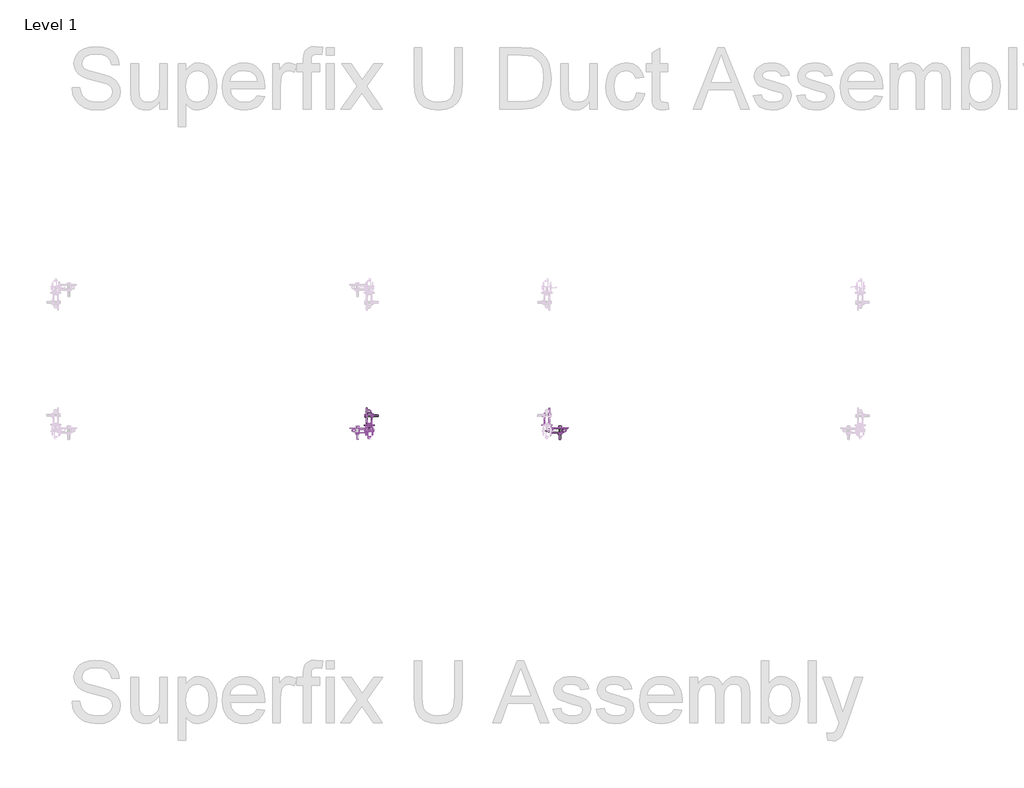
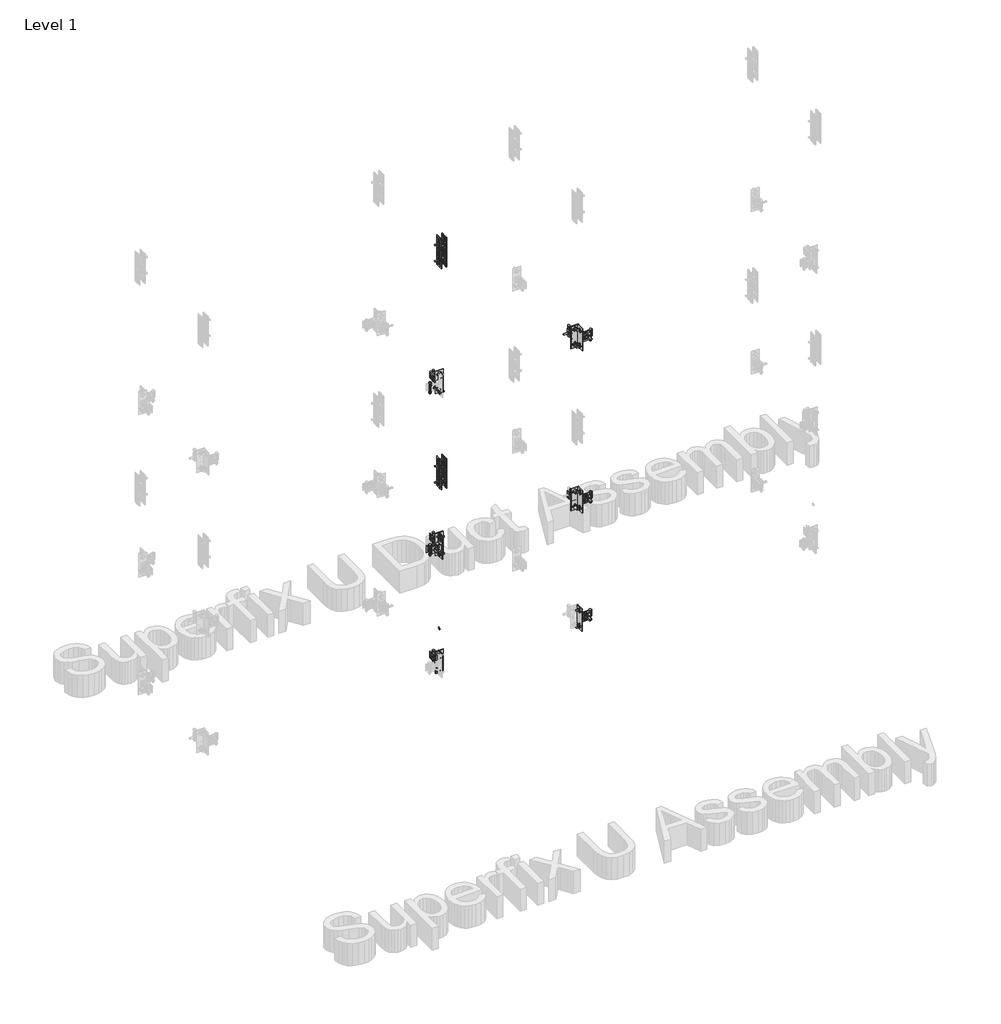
# One storey, part 10 of 32: 144 valves.
"""IFC4 building model written with IfcOpenShell, lengths in millimetres."""

from ifc_helpers import new_model, si_unit, origin, place, context, project, spatial, transform, mapped, element, save
from components import valve_fad8a5b8, hexagon_nut_galvanized_extra_m8_53389388, superfix_hexagon_screw_galvanized_8354a985, superfix_hexagon_screw_galvanized_f0d66714, superfix_hexagon_screw_galvanized_68d17cb7, superfix_hexagon_screw_galvanized_e39b877e, superfix_hexagon_screw_galvanized_3ef5af78, superfix_hexagon_screw_galvanized_3d7df342, superfix_strap_981cfdac, superfix_u_bracket_h_0b8578fe, superfix_u_bracket_h_f60a1122

model = new_model("IFC4")

# Units and contexts
model_context = context("Model", 3, world=origin())
ifc_project = project(units=[si_unit("LENGTHUNIT", "METRE", prefix="MILLI")], contexts=[model_context])

# Site, building, storey
site = spatial("IfcSite", under=ifc_project)
building = spatial("IfcBuilding", under=site)
storey = spatial("IfcBuildingStorey", under=building, Name="Level 1", Elevation=0.0)

# Valves
placement = place(None, origin())
valve_shape = valve_fad8a5b8(model_context)
element("IfcValve", 1, ObjectType="Superfix Flat Washer : Superfix Flat Washer M8x15x1.5", at=placement, inside=storey, context=model_context, shape_type="MappedRepresentation", body=[
    mapped(valve_shape, transform((-21163.450626, 28765.46055, 2600.0), x_axis=(1.0, 0.0, 0.0), y_axis=(0.0, 0.0, 1.0), z_axis=(0.0, -1.0, 0.0))),
])
element("IfcValve", 2, ObjectType="Superfix Flat Washer : Superfix Flat Washer M8x15x1.5", at=placement, inside=storey, context=model_context, shape_type="MappedRepresentation", body=[
    mapped(valve_shape, transform((-21112.450626, 28777.96055, 2658.0), x_axis=(0.0, 0.0, 1.0), y_axis=(0.0, 1.0, 0.0), z_axis=(-1.0, 0.0, 0.0))),
])
element("IfcValve", 3, ObjectType="Superfix Flat Washer : Superfix Flat Washer M8x15x1.5", at=placement, inside=storey, context=model_context, shape_type="MappedRepresentation", body=[
    mapped(valve_shape, transform((-21112.450626, 28777.96055, 2542.0), x_axis=(0.0, 0.0, 1.0), y_axis=(0.0, 1.0, 0.0), z_axis=(-1.0, 0.0, 0.0))),
])
element("IfcValve", 4, ObjectType="Superfix Flat Washer : Superfix Flat Washer M8x15x1.5", at=placement, inside=storey, context=model_context, shape_type="MappedRepresentation", body=[
    mapped(valve_shape, transform((-21183.450626, 28777.96055, 2571.5), x_axis=(1.0, 0.0, 0.0), y_axis=(0.0, -1.0, 0.0), z_axis=(0.0, 0.0, -1.0))),
])
element("IfcValve", 5, ObjectType="Superfix Flat Washer : Superfix Flat Washer M8x15x1.5", at=placement, inside=storey, context=model_context, shape_type="MappedRepresentation", body=[
    mapped(valve_shape, transform((-21163.450626, 28765.46055, 1500.0), x_axis=(1.0, 0.0, 0.0), y_axis=(0.0, 0.0, 1.0), z_axis=(0.0, -1.0, 0.0))),
])
element("IfcValve", 6, ObjectType="Superfix Flat Washer : Superfix Flat Washer M8x15x1.5", at=placement, inside=storey, context=model_context, shape_type="MappedRepresentation", body=[
    mapped(valve_shape, transform((-21112.450626, 28777.96055, 1558.0), x_axis=(0.0, 0.0, 1.0), y_axis=(0.0, 1.0, 0.0), z_axis=(-1.0, 0.0, 0.0))),
])
element("IfcValve", 7, ObjectType="Superfix Flat Washer : Superfix Flat Washer M8x15x1.5", at=placement, inside=storey, context=model_context, shape_type="MappedRepresentation", body=[
    mapped(valve_shape, transform((-21112.450626, 28777.96055, 1442.0), x_axis=(0.0, 0.0, 1.0), y_axis=(0.0, 1.0, 0.0), z_axis=(-1.0, 0.0, 0.0))),
])
element("IfcValve", 8, ObjectType="Superfix Flat Washer : Superfix Flat Washer M8x15x1.5", at=placement, inside=storey, context=model_context, shape_type="MappedRepresentation", body=[
    mapped(valve_shape, transform((-21183.450626, 28777.96055, 1471.5), x_axis=(1.0, 0.0, 0.0), y_axis=(0.0, -1.0, 0.0), z_axis=(0.0, 0.0, -1.0))),
])
element("IfcValve", 9, ObjectType="Superfix Flat Washer : Superfix Flat Washer M8x15x1.5", at=placement, inside=storey, context=model_context, shape_type="MappedRepresentation", body=[
    mapped(valve_shape, transform((-21095.950626, 28851.96055, 2600.0), x_axis=(0.0, 1.0, 0.0), y_axis=(0.0, 0.0, 1.0), z_axis=(1.0, 0.0, 0.0))),
])
element("IfcValve", 10, ObjectType="Superfix Flat Washer : Superfix Flat Washer M8x15x1.5", at=placement, inside=storey, context=model_context, shape_type="MappedRepresentation", body=[
    mapped(valve_shape, transform((-21108.450626, 28802.56055, 2542.0), x_axis=(0.0, 0.0, 1.0), y_axis=(-1.0, 0.0, 0.0), z_axis=(0.0, -1.0, 0.0))),
])
element("IfcValve", 11, ObjectType="Superfix Flat Washer : Superfix Flat Washer M8x15x1.5", at=placement, inside=storey, context=model_context, shape_type="MappedRepresentation", body=[
    mapped(valve_shape, transform((-21108.450626, 28802.56055, 2658.0), x_axis=(0.0, 0.0, 1.0), y_axis=(-1.0, 0.0, 0.0), z_axis=(0.0, -1.0, 0.0))),
])
element("IfcValve", 12, ObjectType="Superfix Flat Washer : Superfix Flat Washer M8x15x1.5", at=placement, inside=storey, context=model_context, shape_type="MappedRepresentation", body=[
    mapped(valve_shape, transform((-21108.450626, 28871.96055, 2571.5), x_axis=(0.0, 1.0, 0.0), y_axis=(1.0, 0.0, 0.0), z_axis=(0.0, 0.0, -1.0))),
])
element("IfcValve", 13, ObjectType="Superfix Flat Washer : Superfix Flat Washer M8x15x1.5", at=placement, inside=storey, context=model_context, shape_type="MappedRepresentation", body=[
    mapped(valve_shape, transform((-21095.950626, 28851.96055, 1500.0), x_axis=(0.0, 1.0, 0.0), y_axis=(0.0, 0.0, 1.0), z_axis=(1.0, 0.0, 0.0))),
])
element("IfcValve", 14, ObjectType="Superfix Flat Washer : Superfix Flat Washer M8x15x1.5", at=placement, inside=storey, context=model_context, shape_type="MappedRepresentation", body=[
    mapped(valve_shape, transform((-21108.450626, 28802.56055, 1442.0), x_axis=(0.0, 0.0, 1.0), y_axis=(-1.0, 0.0, 0.0), z_axis=(0.0, -1.0, 0.0))),
])
element("IfcValve", 15, ObjectType="Superfix Flat Washer : Superfix Flat Washer M8x15x1.5", at=placement, inside=storey, context=model_context, shape_type="MappedRepresentation", body=[
    mapped(valve_shape, transform((-21108.450626, 28802.56055, 1558.0), x_axis=(0.0, 0.0, 1.0), y_axis=(-1.0, 0.0, 0.0), z_axis=(0.0, -1.0, 0.0))),
])
element("IfcValve", 16, ObjectType="Superfix Flat Washer : Superfix Flat Washer M8x15x1.5", at=placement, inside=storey, context=model_context, shape_type="MappedRepresentation", body=[
    mapped(valve_shape, transform((-21108.450626, 28871.96055, 1471.5), x_axis=(0.0, 1.0, 0.0), y_axis=(1.0, 0.0, 0.0), z_axis=(0.0, 0.0, -1.0))),
])
element("IfcValve", 17, ObjectType="Superfix Flat Washer : Superfix Flat Washer M8x15x1.5", at=placement, inside=storey, context=model_context, shape_type="MappedRepresentation", body=[
    mapped(valve_shape, transform((-21095.950626, 28850.96055, 700.0), x_axis=(0.0, 1.0, 0.0), y_axis=(0.0, 0.0, 1.0), z_axis=(1.0, 0.0, 0.0))),
])
element("IfcValve", 18, ObjectType="Superfix Flat Washer : Superfix Flat Washer M8x15x1.5", at=placement, inside=storey, context=model_context, shape_type="MappedRepresentation", body=[
    mapped(valve_shape, transform((-21108.450626, 28801.56055, 642.0), x_axis=(0.0, 0.0, 1.0), y_axis=(-1.0, 0.0, 0.0), z_axis=(0.0, -1.0, 0.0))),
])
element("IfcValve", 19, ObjectType="Superfix Flat Washer : Superfix Flat Washer M8x15x1.5", at=placement, inside=storey, context=model_context, shape_type="MappedRepresentation", body=[
    mapped(valve_shape, transform((-21108.450626, 28801.56055, 758.0), x_axis=(0.0, 0.0, 1.0), y_axis=(-1.0, 0.0, 0.0), z_axis=(0.0, -1.0, 0.0))),
])
element("IfcValve", 20, ObjectType="Superfix Flat Washer : Superfix Flat Washer M8x15x1.5", at=placement, inside=storey, context=model_context, shape_type="MappedRepresentation", body=[
    mapped(valve_shape, transform((-21108.450626, 28870.96055, 671.5), x_axis=(0.0, 1.0, 0.0), y_axis=(1.0, 0.0, 0.0), z_axis=(0.0, 0.0, -1.0))),
])
element("IfcValve", 21, ObjectType="Superfix Flat Washer : Superfix Flat Washer M8x15x1.5", at=placement, inside=storey, context=model_context, shape_type="MappedRepresentation", body=[
    mapped(valve_shape, transform((-20176.450626, 28765.46055, 700.0), x_axis=(1.0, 0.0, 0.0), y_axis=(0.0, 0.0, 1.0), z_axis=(0.0, -1.0, 0.0))),
])
element("IfcValve", 22, ObjectType="Superfix Flat Washer : Superfix Flat Washer M8x15x1.5", at=placement, inside=storey, context=model_context, shape_type="MappedRepresentation", body=[
    mapped(valve_shape, transform((-20225.850626, 28777.96055, 642.0), x_axis=(0.0, 0.0, 1.0), y_axis=(0.0, 1.0, 0.0), z_axis=(-1.0, 0.0, 0.0))),
])
element("IfcValve", 23, ObjectType="Superfix Flat Washer : Superfix Flat Washer M8x15x1.5", at=placement, inside=storey, context=model_context, shape_type="MappedRepresentation", body=[
    mapped(valve_shape, transform((-20225.850626, 28777.96055, 758.0), x_axis=(0.0, 0.0, 1.0), y_axis=(0.0, 1.0, 0.0), z_axis=(-1.0, 0.0, 0.0))),
])
element("IfcValve", 24, ObjectType="Superfix Flat Washer : Superfix Flat Washer M8x15x1.5", at=placement, inside=storey, context=model_context, shape_type="MappedRepresentation", body=[
    mapped(valve_shape, transform((-20156.450626, 28777.96055, 671.5), x_axis=(1.0, 0.0, 0.0), y_axis=(0.0, -1.0, 0.0), z_axis=(0.0, 0.0, -1.0))),
])
element("IfcValve", 25, ObjectType="Superfix Flat Washer : Superfix Flat Washer M8x15x1.5", at=placement, inside=storey, context=model_context, shape_type="MappedRepresentation", body=[
    mapped(valve_shape, transform((-20173.450626, 28765.46055, 2600.0), x_axis=(1.0, 0.0, 0.0), y_axis=(0.0, 0.0, 1.0), z_axis=(0.0, -1.0, 0.0))),
])
element("IfcValve", 26, ObjectType="Superfix Flat Washer : Superfix Flat Washer M8x15x1.5", at=placement, inside=storey, context=model_context, shape_type="MappedRepresentation", body=[
    mapped(valve_shape, transform((-20222.850626, 28777.96055, 2542.0), x_axis=(0.0, 0.0, 1.0), y_axis=(0.0, 1.0, 0.0), z_axis=(-1.0, 0.0, 0.0))),
])
element("IfcValve", 27, ObjectType="Superfix Flat Washer : Superfix Flat Washer M8x15x1.5", at=placement, inside=storey, context=model_context, shape_type="MappedRepresentation", body=[
    mapped(valve_shape, transform((-20222.850626, 28777.96055, 2658.0), x_axis=(0.0, 0.0, 1.0), y_axis=(0.0, 1.0, 0.0), z_axis=(-1.0, 0.0, 0.0))),
])
element("IfcValve", 28, ObjectType="Superfix Flat Washer : Superfix Flat Washer M8x15x1.5", at=placement, inside=storey, context=model_context, shape_type="MappedRepresentation", body=[
    mapped(valve_shape, transform((-20153.450626, 28777.96055, 2571.5), x_axis=(1.0, 0.0, 0.0), y_axis=(0.0, -1.0, 0.0), z_axis=(0.0, 0.0, -1.0))),
])
element("IfcValve", 29, ObjectType="Superfix Flat Washer : Superfix Flat Washer M8x15x1.5", at=placement, inside=storey, context=model_context, shape_type="MappedRepresentation", body=[
    mapped(valve_shape, transform((-20173.450626, 28765.46055, 1500.0), x_axis=(1.0, 0.0, 0.0), y_axis=(0.0, 0.0, 1.0), z_axis=(0.0, -1.0, 0.0))),
])
element("IfcValve", 30, ObjectType="Superfix Flat Washer : Superfix Flat Washer M8x15x1.5", at=placement, inside=storey, context=model_context, shape_type="MappedRepresentation", body=[
    mapped(valve_shape, transform((-20222.850626, 28777.96055, 1442.0), x_axis=(0.0, 0.0, 1.0), y_axis=(0.0, 1.0, 0.0), z_axis=(-1.0, 0.0, 0.0))),
])
element("IfcValve", 31, ObjectType="Superfix Flat Washer : Superfix Flat Washer M8x15x1.5", at=placement, inside=storey, context=model_context, shape_type="MappedRepresentation", body=[
    mapped(valve_shape, transform((-20222.850626, 28777.96055, 1558.0), x_axis=(0.0, 0.0, 1.0), y_axis=(0.0, 1.0, 0.0), z_axis=(-1.0, 0.0, 0.0))),
])
element("IfcValve", 32, ObjectType="Superfix Flat Washer : Superfix Flat Washer M8x15x1.5", at=placement, inside=storey, context=model_context, shape_type="MappedRepresentation", body=[
    mapped(valve_shape, transform((-20153.450626, 28777.96055, 1471.5), x_axis=(1.0, 0.0, 0.0), y_axis=(0.0, -1.0, 0.0), z_axis=(0.0, 0.0, -1.0))),
])
element("IfcValve", 33, ObjectType="Superfix Flat Washer : Superfix Flat Washer M8x15x1.5", at=placement, inside=storey, context=model_context, shape_type="MappedRepresentation", body=[
    mapped(valve_shape, transform((-20252.950626, 28850.96055, 2600.0), x_axis=(0.0, -1.0, 0.0), y_axis=(0.0, 0.0, 1.0), z_axis=(-1.0, 0.0, 0.0))),
])
element("IfcValve", 34, ObjectType="Superfix Flat Washer : Superfix Flat Washer M8x15x1.5", at=placement, inside=storey, context=model_context, shape_type="MappedRepresentation", body=[
    mapped(valve_shape, transform((-20240.450626, 28799.96055, 2658.0), x_axis=(0.0, 0.0, 1.0), y_axis=(1.0, 0.0, 0.0), z_axis=(0.0, 1.0, 0.0))),
])
element("IfcValve", 35, ObjectType="Superfix Flat Washer : Superfix Flat Washer M8x15x1.5", at=placement, inside=storey, context=model_context, shape_type="MappedRepresentation", body=[
    mapped(valve_shape, transform((-20240.450626, 28799.96055, 2542.0), x_axis=(0.0, 0.0, 1.0), y_axis=(1.0, 0.0, 0.0), z_axis=(0.0, 1.0, 0.0))),
])
element("IfcValve", 36, ObjectType="Superfix Flat Washer : Superfix Flat Washer M8x15x1.5", at=placement, inside=storey, context=model_context, shape_type="MappedRepresentation", body=[
    mapped(valve_shape, transform((-20240.450626, 28870.96055, 2571.5), x_axis=(0.0, -1.0, 0.0), y_axis=(-1.0, 0.0, 0.0), z_axis=(0.0, 0.0, -1.0))),
])
element("IfcValve", 37, ObjectType="Superfix Flat Washer : Superfix Flat Washer M8x15x1.5", at=placement, inside=storey, context=model_context, shape_type="MappedRepresentation", body=[
    mapped(valve_shape, transform((-21126.050626, 28777.96055, 2055.0), x_axis=(0.0, 1.0, 0.0), y_axis=(0.0, 0.0, 1.0), z_axis=(1.0, 0.0, 0.0))),
])
element("IfcValve", 38, ObjectType="Superfix Flat Washer : Superfix Flat Washer M8x15x1.5", at=placement, inside=storey, context=model_context, shape_type="MappedRepresentation", body=[
    mapped(valve_shape, transform((-21126.050626, 28777.96055, 945.0), x_axis=(0.0, 1.0, 0.0), y_axis=(0.0, 0.0, 1.0), z_axis=(1.0, 0.0, 0.0))),
])
element("IfcValve", 39, ObjectType="Superfix Flat Washer : Superfix Flat Washer M8x15x1.5", at=placement, inside=storey, context=model_context, shape_type="MappedRepresentation", body=[
    mapped(valve_shape, transform((-21108.450626, 28749.46055, 2040.0), x_axis=(1.0, 0.0, 0.0), y_axis=(0.0, 0.0, 1.0), z_axis=(0.0, -1.0, 0.0))),
])
element("IfcValve", 40, ObjectType="Superfix Flat Washer : Superfix Flat Washer M8x15x1.5", at=placement, inside=storey, context=model_context, shape_type="MappedRepresentation", body=[
    mapped(valve_shape, transform((-21108.450626, 28749.46055, 1960.0), x_axis=(1.0, 0.0, 0.0), y_axis=(0.0, 0.0, 1.0), z_axis=(0.0, -1.0, 0.0))),
])
element("IfcValve", 41, ObjectType="Superfix Flat Washer : Superfix Flat Washer M8x15x1.5", at=placement, inside=storey, context=model_context, shape_type="MappedRepresentation", body=[
    mapped(valve_shape, transform((-21126.050626, 28777.96055, 3555.0), x_axis=(0.0, 1.0, 0.0), y_axis=(0.0, 0.0, 1.0), z_axis=(1.0, 0.0, 0.0))),
])
element("IfcValve", 42, ObjectType="Superfix Flat Washer : Superfix Flat Washer M8x15x1.5", at=placement, inside=storey, context=model_context, shape_type="MappedRepresentation", body=[
    mapped(valve_shape, transform((-21108.450626, 28749.46055, 3540.0), x_axis=(1.0, 0.0, 0.0), y_axis=(0.0, 0.0, 1.0), z_axis=(0.0, -1.0, 0.0))),
])
element("IfcValve", 43, ObjectType="Superfix Flat Washer : Superfix Flat Washer M8x15x1.5", at=placement, inside=storey, context=model_context, shape_type="MappedRepresentation", body=[
    mapped(valve_shape, transform((-21108.450626, 28749.46055, 3460.0), x_axis=(1.0, 0.0, 0.0), y_axis=(0.0, 0.0, 1.0), z_axis=(0.0, -1.0, 0.0))),
])
hexagon_nut_galvanized_extra_m8_shape = hexagon_nut_galvanized_extra_m8_53389388(model_context)
element("IfcValve", 44, ObjectType="Superfix Hexagon Nut Galvanized : Hexagon Nut Galvanized M8", at=placement, inside=storey, context=model_context, shape_type="MappedRepresentation", body=[
    mapped(hexagon_nut_galvanized_extra_m8_shape, transform((-21163.450626, 28765.46055, 2600.0), x_axis=(1.0, 0.0, 0.0), y_axis=(0.0, 0.0, 1.0), z_axis=(0.0, -1.0, 0.0))),
])
element("IfcValve", 45, ObjectType="Superfix Hexagon Nut Galvanized : Hexagon Nut Galvanized M8", at=placement, inside=storey, context=model_context, shape_type="MappedRepresentation", body=[
    mapped(hexagon_nut_galvanized_extra_m8_shape, transform((-21183.450626, 28777.96055, 2565.0), x_axis=(0.0, 1.0, 0.0), y_axis=(-1.0, 0.0, 0.0), z_axis=(0.0, 0.0, 1.0))),
])
element("IfcValve", 46, ObjectType="Superfix Hexagon Nut Galvanized : Hexagon Nut Galvanized M8", at=placement, inside=storey, context=model_context, shape_type="MappedRepresentation", body=[
    mapped(hexagon_nut_galvanized_extra_m8_shape, transform((-21105.950626, 28777.96055, 2542.0), x_axis=(0.0, 0.0, 1.0), y_axis=(0.0, 1.0, 0.0), z_axis=(-1.0, 0.0, 0.0))),
])
element("IfcValve", 47, ObjectType="Superfix Hexagon Nut Galvanized : Hexagon Nut Galvanized M8", at=placement, inside=storey, context=model_context, shape_type="MappedRepresentation", body=[
    mapped(hexagon_nut_galvanized_extra_m8_shape, transform((-21105.950626, 28777.96055, 2658.0), x_axis=(0.0, 0.0, 1.0), y_axis=(0.0, 1.0, 0.0), z_axis=(-1.0, 0.0, 0.0))),
])
element("IfcValve", 48, ObjectType="Superfix Hexagon Nut Galvanized : Hexagon Nut Galvanized M8", at=placement, inside=storey, context=model_context, shape_type="MappedRepresentation", body=[
    mapped(hexagon_nut_galvanized_extra_m8_shape, transform((-21163.450626, 28765.46055, 1500.0), x_axis=(1.0, 0.0, 0.0), y_axis=(0.0, 0.0, 1.0), z_axis=(0.0, -1.0, 0.0))),
])
element("IfcValve", 49, ObjectType="Superfix Hexagon Nut Galvanized : Hexagon Nut Galvanized M8", at=placement, inside=storey, context=model_context, shape_type="MappedRepresentation", body=[
    mapped(hexagon_nut_galvanized_extra_m8_shape, transform((-21183.450626, 28777.96055, 1465.0), x_axis=(0.0, 1.0, 0.0), y_axis=(-1.0, 0.0, 0.0), z_axis=(0.0, 0.0, 1.0))),
])
element("IfcValve", 50, ObjectType="Superfix Hexagon Nut Galvanized : Hexagon Nut Galvanized M8", at=placement, inside=storey, context=model_context, shape_type="MappedRepresentation", body=[
    mapped(hexagon_nut_galvanized_extra_m8_shape, transform((-21105.950626, 28777.96055, 1442.0), x_axis=(0.0, 0.0, 1.0), y_axis=(0.0, 1.0, 0.0), z_axis=(-1.0, 0.0, 0.0))),
])
element("IfcValve", 51, ObjectType="Superfix Hexagon Nut Galvanized : Hexagon Nut Galvanized M8", at=placement, inside=storey, context=model_context, shape_type="MappedRepresentation", body=[
    mapped(hexagon_nut_galvanized_extra_m8_shape, transform((-21105.950626, 28777.96055, 1558.0), x_axis=(0.0, 0.0, 1.0), y_axis=(0.0, 1.0, 0.0), z_axis=(-1.0, 0.0, 0.0))),
])
element("IfcValve", 52, ObjectType="Superfix Hexagon Nut Galvanized : Hexagon Nut Galvanized M8", at=placement, inside=storey, context=model_context, shape_type="MappedRepresentation", body=[
    mapped(hexagon_nut_galvanized_extra_m8_shape, transform((-20252.950626, 28850.96055, 2600.0), x_axis=(0.0, -1.0, 0.0), y_axis=(0.0, 0.0, 1.0), z_axis=(-1.0, 0.0, 0.0))),
])
element("IfcValve", 53, ObjectType="Superfix Hexagon Nut Galvanized : Hexagon Nut Galvanized M8", at=placement, inside=storey, context=model_context, shape_type="MappedRepresentation", body=[
    mapped(hexagon_nut_galvanized_extra_m8_shape, transform((-20240.450626, 28870.96055, 2565.0), x_axis=(1.0, 0.0, 0.0), y_axis=(0.0, 1.0, 0.0), z_axis=(0.0, 0.0, 1.0))),
])
element("IfcValve", 54, ObjectType="Superfix Hexagon Nut Galvanized : Hexagon Nut Galvanized M8", at=placement, inside=storey, context=model_context, shape_type="MappedRepresentation", body=[
    mapped(hexagon_nut_galvanized_extra_m8_shape, transform((-20240.450626, 28793.46055, 2542.0), x_axis=(0.0, 0.0, 1.0), y_axis=(1.0, 0.0, 0.0), z_axis=(0.0, 1.0, 0.0))),
])
element("IfcValve", 55, ObjectType="Superfix Hexagon Nut Galvanized : Hexagon Nut Galvanized M8", at=placement, inside=storey, context=model_context, shape_type="MappedRepresentation", body=[
    mapped(hexagon_nut_galvanized_extra_m8_shape, transform((-20240.450626, 28793.46055, 2658.0), x_axis=(0.0, 0.0, 1.0), y_axis=(1.0, 0.0, 0.0), z_axis=(0.0, 1.0, 0.0))),
])
element("IfcValve", 56, ObjectType="Superfix Hexagon Nut Galvanized : Hexagon Nut Galvanized M8", at=placement, inside=storey, context=model_context, shape_type="MappedRepresentation", body=[
    mapped(hexagon_nut_galvanized_extra_m8_shape, transform((-21095.950626, 28851.96055, 2600.0), x_axis=(0.0, -1.0, 0.0), y_axis=(0.0, 0.0, -1.0), z_axis=(1.0, 0.0, 0.0))),
])
element("IfcValve", 57, ObjectType="Superfix Hexagon Nut Galvanized : Hexagon Nut Galvanized M8", at=placement, inside=storey, context=model_context, shape_type="MappedRepresentation", body=[
    mapped(hexagon_nut_galvanized_extra_m8_shape, transform((-21108.450626, 28871.96055, 2565.0), x_axis=(-1.0, 0.0, 0.0), y_axis=(0.0, -1.0, 0.0), z_axis=(0.0, 0.0, 1.0))),
])
element("IfcValve", 58, ObjectType="Superfix Hexagon Nut Galvanized : Hexagon Nut Galvanized M8", at=placement, inside=storey, context=model_context, shape_type="MappedRepresentation", body=[
    mapped(hexagon_nut_galvanized_extra_m8_shape, transform((-21108.450626, 28794.46055, 2542.0), x_axis=(0.0, 0.0, 1.0), y_axis=(1.0, 0.0, 0.0), z_axis=(0.0, 1.0, 0.0))),
])
element("IfcValve", 59, ObjectType="Superfix Hexagon Nut Galvanized : Hexagon Nut Galvanized M8", at=placement, inside=storey, context=model_context, shape_type="MappedRepresentation", body=[
    mapped(hexagon_nut_galvanized_extra_m8_shape, transform((-21108.450626, 28794.46055, 2658.0), x_axis=(0.0, 0.0, 1.0), y_axis=(1.0, 0.0, 0.0), z_axis=(0.0, 1.0, 0.0))),
])
element("IfcValve", 60, ObjectType="Superfix Hexagon Nut Galvanized : Hexagon Nut Galvanized M8", at=placement, inside=storey, context=model_context, shape_type="MappedRepresentation", body=[
    mapped(hexagon_nut_galvanized_extra_m8_shape, transform((-21095.950626, 28851.96055, 1500.0), x_axis=(0.0, -1.0, 0.0), y_axis=(0.0, 0.0, -1.0), z_axis=(1.0, 0.0, 0.0))),
])
element("IfcValve", 61, ObjectType="Superfix Hexagon Nut Galvanized : Hexagon Nut Galvanized M8", at=placement, inside=storey, context=model_context, shape_type="MappedRepresentation", body=[
    mapped(hexagon_nut_galvanized_extra_m8_shape, transform((-21108.450626, 28871.96055, 1465.0), x_axis=(-1.0, 0.0, 0.0), y_axis=(0.0, -1.0, 0.0), z_axis=(0.0, 0.0, 1.0))),
])
element("IfcValve", 62, ObjectType="Superfix Hexagon Nut Galvanized : Hexagon Nut Galvanized M8", at=placement, inside=storey, context=model_context, shape_type="MappedRepresentation", body=[
    mapped(hexagon_nut_galvanized_extra_m8_shape, transform((-21108.450626, 28794.46055, 1442.0), x_axis=(0.0, 0.0, 1.0), y_axis=(1.0, 0.0, 0.0), z_axis=(0.0, 1.0, 0.0))),
])
element("IfcValve", 63, ObjectType="Superfix Hexagon Nut Galvanized : Hexagon Nut Galvanized M8", at=placement, inside=storey, context=model_context, shape_type="MappedRepresentation", body=[
    mapped(hexagon_nut_galvanized_extra_m8_shape, transform((-21108.450626, 28794.46055, 1558.0), x_axis=(0.0, 0.0, 1.0), y_axis=(1.0, 0.0, 0.0), z_axis=(0.0, 1.0, 0.0))),
])
element("IfcValve", 64, ObjectType="Superfix Hexagon Nut Galvanized : Hexagon Nut Galvanized M8", at=placement, inside=storey, context=model_context, shape_type="MappedRepresentation", body=[
    mapped(hexagon_nut_galvanized_extra_m8_shape, transform((-21095.950626, 28850.96055, 700.0), x_axis=(0.0, -1.0, 0.0), y_axis=(0.0, 0.0, -1.0), z_axis=(1.0, 0.0, 0.0))),
])
element("IfcValve", 65, ObjectType="Superfix Hexagon Nut Galvanized : Hexagon Nut Galvanized M8", at=placement, inside=storey, context=model_context, shape_type="MappedRepresentation", body=[
    mapped(hexagon_nut_galvanized_extra_m8_shape, transform((-21108.450626, 28870.96055, 665.0), x_axis=(-1.0, 0.0, 0.0), y_axis=(0.0, -1.0, 0.0), z_axis=(0.0, 0.0, 1.0))),
])
element("IfcValve", 66, ObjectType="Superfix Hexagon Nut Galvanized : Hexagon Nut Galvanized M8", at=placement, inside=storey, context=model_context, shape_type="MappedRepresentation", body=[
    mapped(hexagon_nut_galvanized_extra_m8_shape, transform((-21108.450626, 28793.46055, 642.0), x_axis=(0.0, 0.0, 1.0), y_axis=(1.0, 0.0, 0.0), z_axis=(0.0, 1.0, 0.0))),
])
element("IfcValve", 67, ObjectType="Superfix Hexagon Nut Galvanized : Hexagon Nut Galvanized M8", at=placement, inside=storey, context=model_context, shape_type="MappedRepresentation", body=[
    mapped(hexagon_nut_galvanized_extra_m8_shape, transform((-21108.450626, 28793.46055, 758.0), x_axis=(0.0, 0.0, 1.0), y_axis=(1.0, 0.0, 0.0), z_axis=(0.0, 1.0, 0.0))),
])
element("IfcValve", 68, ObjectType="Superfix Hexagon Nut Galvanized : Hexagon Nut Galvanized M8", at=placement, inside=storey, context=model_context, shape_type="MappedRepresentation", body=[
    mapped(hexagon_nut_galvanized_extra_m8_shape, transform((-20176.450626, 28765.46055, 700.0), x_axis=(-1.0, 0.0, 0.0), y_axis=(0.0, 0.0, -1.0), z_axis=(0.0, -1.0, 0.0))),
])
element("IfcValve", 69, ObjectType="Superfix Hexagon Nut Galvanized : Hexagon Nut Galvanized M8", at=placement, inside=storey, context=model_context, shape_type="MappedRepresentation", body=[
    mapped(hexagon_nut_galvanized_extra_m8_shape, transform((-20156.450626, 28777.96055, 665.0), x_axis=(0.0, 1.0, 0.0), y_axis=(-1.0, 0.0, 0.0), z_axis=(0.0, 0.0, 1.0))),
])
element("IfcValve", 70, ObjectType="Superfix Hexagon Nut Galvanized : Hexagon Nut Galvanized M8", at=placement, inside=storey, context=model_context, shape_type="MappedRepresentation", body=[
    mapped(hexagon_nut_galvanized_extra_m8_shape, transform((-20233.950626, 28777.96055, 642.0), x_axis=(0.0, 0.0, 1.0), y_axis=(0.0, -1.0, 0.0), z_axis=(1.0, 0.0, 0.0))),
])
element("IfcValve", 71, ObjectType="Superfix Hexagon Nut Galvanized : Hexagon Nut Galvanized M8", at=placement, inside=storey, context=model_context, shape_type="MappedRepresentation", body=[
    mapped(hexagon_nut_galvanized_extra_m8_shape, transform((-20233.950626, 28777.96055, 758.0), x_axis=(0.0, 0.0, 1.0), y_axis=(0.0, -1.0, 0.0), z_axis=(1.0, 0.0, 0.0))),
])
element("IfcValve", 72, ObjectType="Superfix Hexagon Nut Galvanized : Hexagon Nut Galvanized M8", at=placement, inside=storey, context=model_context, shape_type="MappedRepresentation", body=[
    mapped(hexagon_nut_galvanized_extra_m8_shape, transform((-20173.450626, 28765.46055, 2600.0), x_axis=(-1.0, 0.0, 0.0), y_axis=(0.0, 0.0, -1.0), z_axis=(0.0, -1.0, 0.0))),
])
element("IfcValve", 73, ObjectType="Superfix Hexagon Nut Galvanized : Hexagon Nut Galvanized M8", at=placement, inside=storey, context=model_context, shape_type="MappedRepresentation", body=[
    mapped(hexagon_nut_galvanized_extra_m8_shape, transform((-20153.450626, 28777.96055, 2565.0), x_axis=(0.0, 1.0, 0.0), y_axis=(-1.0, 0.0, 0.0), z_axis=(0.0, 0.0, 1.0))),
])
element("IfcValve", 74, ObjectType="Superfix Hexagon Nut Galvanized : Hexagon Nut Galvanized M8", at=placement, inside=storey, context=model_context, shape_type="MappedRepresentation", body=[
    mapped(hexagon_nut_galvanized_extra_m8_shape, transform((-20230.950626, 28777.96055, 2542.0), x_axis=(0.0, 0.0, 1.0), y_axis=(0.0, -1.0, 0.0), z_axis=(1.0, 0.0, 0.0))),
])
element("IfcValve", 75, ObjectType="Superfix Hexagon Nut Galvanized : Hexagon Nut Galvanized M8", at=placement, inside=storey, context=model_context, shape_type="MappedRepresentation", body=[
    mapped(hexagon_nut_galvanized_extra_m8_shape, transform((-20230.950626, 28777.96055, 2658.0), x_axis=(0.0, 0.0, 1.0), y_axis=(0.0, -1.0, 0.0), z_axis=(1.0, 0.0, 0.0))),
])
element("IfcValve", 76, ObjectType="Superfix Hexagon Nut Galvanized : Hexagon Nut Galvanized M8", at=placement, inside=storey, context=model_context, shape_type="MappedRepresentation", body=[
    mapped(hexagon_nut_galvanized_extra_m8_shape, transform((-20173.450626, 28765.46055, 1500.0), x_axis=(-1.0, 0.0, 0.0), y_axis=(0.0, 0.0, -1.0), z_axis=(0.0, -1.0, 0.0))),
])
element("IfcValve", 77, ObjectType="Superfix Hexagon Nut Galvanized : Hexagon Nut Galvanized M8", at=placement, inside=storey, context=model_context, shape_type="MappedRepresentation", body=[
    mapped(hexagon_nut_galvanized_extra_m8_shape, transform((-20153.450626, 28777.96055, 1465.0), x_axis=(0.0, 1.0, 0.0), y_axis=(-1.0, 0.0, 0.0), z_axis=(0.0, 0.0, 1.0))),
])
element("IfcValve", 78, ObjectType="Superfix Hexagon Nut Galvanized : Hexagon Nut Galvanized M8", at=placement, inside=storey, context=model_context, shape_type="MappedRepresentation", body=[
    mapped(hexagon_nut_galvanized_extra_m8_shape, transform((-20230.950626, 28777.96055, 1442.0), x_axis=(0.0, 0.0, 1.0), y_axis=(0.0, -1.0, 0.0), z_axis=(1.0, 0.0, 0.0))),
])
element("IfcValve", 79, ObjectType="Superfix Hexagon Nut Galvanized : Hexagon Nut Galvanized M8", at=placement, inside=storey, context=model_context, shape_type="MappedRepresentation", body=[
    mapped(hexagon_nut_galvanized_extra_m8_shape, transform((-20230.950626, 28777.96055, 1558.0), x_axis=(0.0, 0.0, 1.0), y_axis=(0.0, -1.0, 0.0), z_axis=(1.0, 0.0, 0.0))),
])
element("IfcValve", 80, ObjectType="Superfix Hexagon Nut Galvanized : Hexagon Nut Galvanized M8", at=placement, inside=storey, context=model_context, shape_type="MappedRepresentation", body=[
    mapped(hexagon_nut_galvanized_extra_m8_shape, transform((-21124.450626, 28777.96055, 2055.0), x_axis=(0.0, 1.0, 0.0), y_axis=(0.0, 0.0, -1.0), z_axis=(-1.0, 0.0, 0.0))),
])
element("IfcValve", 81, ObjectType="Superfix Hexagon Nut Galvanized : Hexagon Nut Galvanized M8", at=placement, inside=storey, context=model_context, shape_type="MappedRepresentation", body=[
    mapped(hexagon_nut_galvanized_extra_m8_shape, transform((-21124.450626, 28777.96055, 1945.0), x_axis=(0.0, 1.0, 0.0), y_axis=(0.0, 0.0, -1.0), z_axis=(-1.0, 0.0, 0.0))),
])
element("IfcValve", 82, ObjectType="Superfix Hexagon Nut Galvanized : Hexagon Nut Galvanized M8", at=placement, inside=storey, context=model_context, shape_type="MappedRepresentation", body=[
    mapped(hexagon_nut_galvanized_extra_m8_shape, transform((-21108.450626, 28749.46055, 2040.0), x_axis=(1.0, 0.0, 0.0), y_axis=(0.0, 0.0, 1.0), z_axis=(0.0, -1.0, 0.0))),
])
element("IfcValve", 83, ObjectType="Superfix Hexagon Nut Galvanized : Hexagon Nut Galvanized M8", at=placement, inside=storey, context=model_context, shape_type="MappedRepresentation", body=[
    mapped(hexagon_nut_galvanized_extra_m8_shape, transform((-21108.450626, 28749.46055, 1960.0), x_axis=(1.0, 0.0, 0.0), y_axis=(0.0, 0.0, 1.0), z_axis=(0.0, -1.0, 0.0))),
])
element("IfcValve", 84, ObjectType="Superfix Hexagon Nut Galvanized : Hexagon Nut Galvanized M8", at=placement, inside=storey, context=model_context, shape_type="MappedRepresentation", body=[
    mapped(hexagon_nut_galvanized_extra_m8_shape, transform((-21124.450626, 28777.96055, 3555.0), x_axis=(0.0, 1.0, 0.0), y_axis=(0.0, 0.0, -1.0), z_axis=(-1.0, 0.0, 0.0))),
])
element("IfcValve", 85, ObjectType="Superfix Hexagon Nut Galvanized : Hexagon Nut Galvanized M8", at=placement, inside=storey, context=model_context, shape_type="MappedRepresentation", body=[
    mapped(hexagon_nut_galvanized_extra_m8_shape, transform((-21124.450626, 28777.96055, 3445.0), x_axis=(0.0, 1.0, 0.0), y_axis=(0.0, 0.0, -1.0), z_axis=(-1.0, 0.0, 0.0))),
])
element("IfcValve", 86, ObjectType="Superfix Hexagon Nut Galvanized : Hexagon Nut Galvanized M8", at=placement, inside=storey, context=model_context, shape_type="MappedRepresentation", body=[
    mapped(hexagon_nut_galvanized_extra_m8_shape, transform((-21108.450626, 28749.46055, 3540.0), x_axis=(1.0, 0.0, 0.0), y_axis=(0.0, 0.0, 1.0), z_axis=(0.0, -1.0, 0.0))),
])
element("IfcValve", 87, ObjectType="Superfix Hexagon Nut Galvanized : Hexagon Nut Galvanized M8", at=placement, inside=storey, context=model_context, shape_type="MappedRepresentation", body=[
    mapped(hexagon_nut_galvanized_extra_m8_shape, transform((-21108.450626, 28749.46055, 3460.0), x_axis=(1.0, 0.0, 0.0), y_axis=(0.0, 0.0, 1.0), z_axis=(0.0, -1.0, 0.0))),
])
superfix_hexagon_screw_galvanized_shape = superfix_hexagon_screw_galvanized_8354a985(model_context)
element("IfcValve", 88, ObjectType="SuperFix Hexagon Screw Galvanized : Hexagon Screw Galvanized M8 × 25", at=placement, inside=storey, context=model_context, shape_type="MappedRepresentation", body=[
    mapped(superfix_hexagon_screw_galvanized_shape, transform((-21108.450626, 28806.96055, 2658.0), x_axis=(0.0, 0.0, 1.0), y_axis=(1.0, 0.0, 0.0), z_axis=(0.0, 1.0, 0.0))),
])
element("IfcValve", 89, ObjectType="SuperFix Hexagon Screw Galvanized : Hexagon Screw Galvanized M8 × 25", at=placement, inside=storey, context=model_context, shape_type="MappedRepresentation", body=[
    mapped(superfix_hexagon_screw_galvanized_shape, transform((-21108.450626, 28806.96055, 2542.0), x_axis=(0.0, 0.0, 1.0), y_axis=(1.0, 0.0, 0.0), z_axis=(0.0, 1.0, 0.0))),
])
element("IfcValve", 90, ObjectType="SuperFix Hexagon Screw Galvanized : Hexagon Screw Galvanized M8 × 25", at=placement, inside=storey, context=model_context, shape_type="MappedRepresentation", body=[
    mapped(superfix_hexagon_screw_galvanized_shape, transform((-21108.450626, 28806.96055, 1558.0), x_axis=(0.0, 0.0, 1.0), y_axis=(1.0, 0.0, 0.0), z_axis=(0.0, 1.0, 0.0))),
])
element("IfcValve", 91, ObjectType="SuperFix Hexagon Screw Galvanized : Hexagon Screw Galvanized M8 × 25", at=placement, inside=storey, context=model_context, shape_type="MappedRepresentation", body=[
    mapped(superfix_hexagon_screw_galvanized_shape, transform((-21108.450626, 28806.96055, 1442.0), x_axis=(0.0, 0.0, 1.0), y_axis=(1.0, 0.0, 0.0), z_axis=(0.0, 1.0, 0.0))),
])
element("IfcValve", 92, ObjectType="SuperFix Hexagon Screw Galvanized : Hexagon Screw Galvanized M8 × 25", at=placement, inside=storey, context=model_context, shape_type="MappedRepresentation", body=[
    mapped(superfix_hexagon_screw_galvanized_shape, transform((-21108.450626, 28805.96055, 758.0), x_axis=(0.0, 0.0, 1.0), y_axis=(1.0, 0.0, 0.0), z_axis=(0.0, 1.0, 0.0))),
])
element("IfcValve", 93, ObjectType="SuperFix Hexagon Screw Galvanized : Hexagon Screw Galvanized M8 × 25", at=placement, inside=storey, context=model_context, shape_type="MappedRepresentation", body=[
    mapped(superfix_hexagon_screw_galvanized_shape, transform((-21108.450626, 28805.96055, 642.0), x_axis=(0.0, 0.0, 1.0), y_axis=(1.0, 0.0, 0.0), z_axis=(0.0, 1.0, 0.0))),
])
element("IfcValve", 94, ObjectType="SuperFix Hexagon Screw Galvanized : Hexagon Screw Galvanized M8 × 25", at=placement, inside=storey, context=model_context, shape_type="MappedRepresentation", body=[
    mapped(superfix_hexagon_screw_galvanized_shape, transform((-20221.450626, 28777.96055, 758.0), x_axis=(0.0, 0.0, 1.0), y_axis=(0.0, -1.0, 0.0), z_axis=(1.0, 0.0, 0.0))),
])
element("IfcValve", 95, ObjectType="SuperFix Hexagon Screw Galvanized : Hexagon Screw Galvanized M8 × 25", at=placement, inside=storey, context=model_context, shape_type="MappedRepresentation", body=[
    mapped(superfix_hexagon_screw_galvanized_shape, transform((-20221.450626, 28777.96055, 642.0), x_axis=(0.0, 0.0, 1.0), y_axis=(0.0, -1.0, 0.0), z_axis=(1.0, 0.0, 0.0))),
])
element("IfcValve", 96, ObjectType="SuperFix Hexagon Screw Galvanized : Hexagon Screw Galvanized M8 × 25", at=placement, inside=storey, context=model_context, shape_type="MappedRepresentation", body=[
    mapped(superfix_hexagon_screw_galvanized_shape, transform((-20218.450626, 28777.96055, 2658.0), x_axis=(0.0, 0.0, 1.0), y_axis=(0.0, -1.0, 0.0), z_axis=(1.0, 0.0, 0.0))),
])
element("IfcValve", 97, ObjectType="SuperFix Hexagon Screw Galvanized : Hexagon Screw Galvanized M8 × 25", at=placement, inside=storey, context=model_context, shape_type="MappedRepresentation", body=[
    mapped(superfix_hexagon_screw_galvanized_shape, transform((-20218.450626, 28777.96055, 2542.0), x_axis=(0.0, 0.0, 1.0), y_axis=(0.0, -1.0, 0.0), z_axis=(1.0, 0.0, 0.0))),
])
element("IfcValve", 98, ObjectType="SuperFix Hexagon Screw Galvanized : Hexagon Screw Galvanized M8 × 25", at=placement, inside=storey, context=model_context, shape_type="MappedRepresentation", body=[
    mapped(superfix_hexagon_screw_galvanized_shape, transform((-20218.450626, 28777.96055, 1558.0), x_axis=(0.0, 0.0, 1.0), y_axis=(0.0, -1.0, 0.0), z_axis=(1.0, 0.0, 0.0))),
])
element("IfcValve", 99, ObjectType="SuperFix Hexagon Screw Galvanized : Hexagon Screw Galvanized M8 × 25", at=placement, inside=storey, context=model_context, shape_type="MappedRepresentation", body=[
    mapped(superfix_hexagon_screw_galvanized_shape, transform((-20218.450626, 28777.96055, 1442.0), x_axis=(0.0, 0.0, 1.0), y_axis=(0.0, -1.0, 0.0), z_axis=(1.0, 0.0, 0.0))),
])
superfix_hexagon_screw_galvanized_2_shape = superfix_hexagon_screw_galvanized_f0d66714(model_context)
element("IfcValve", 100, ObjectType="SuperFix Hexagon Screw Galvanized : Hexagon Screw Galvanized M8 × 60", at=placement, inside=storey, context=model_context, shape_type="MappedRepresentation", body=[
    mapped(superfix_hexagon_screw_galvanized_2_shape, transform((-21163.450626, 28793.46055, 2600.0), x_axis=(0.0, 0.0, 1.0), y_axis=(1.0, 0.0, 0.0), z_axis=(0.0, 1.0, 0.0))),
])
element("IfcValve", 101, ObjectType="SuperFix Hexagon Screw Galvanized : Hexagon Screw Galvanized M8 × 60", at=placement, inside=storey, context=model_context, shape_type="MappedRepresentation", body=[
    mapped(superfix_hexagon_screw_galvanized_2_shape, transform((-21163.450626, 28793.46055, 1500.0), x_axis=(0.0, 0.0, 1.0), y_axis=(1.0, 0.0, 0.0), z_axis=(0.0, 1.0, 0.0))),
])
element("IfcValve", 102, ObjectType="SuperFix Hexagon Screw Galvanized : Hexagon Screw Galvanized M8 × 60", at=placement, inside=storey, context=model_context, shape_type="MappedRepresentation", body=[
    mapped(superfix_hexagon_screw_galvanized_2_shape, transform((-20224.950626, 28850.96055, 2600.0), x_axis=(0.0, 0.0, 1.0), y_axis=(0.0, -1.0, 0.0), z_axis=(1.0, 0.0, 0.0))),
])
superfix_hexagon_screw_galvanized_3_shape = superfix_hexagon_screw_galvanized_68d17cb7(model_context)
element("IfcValve", 103, ObjectType="SuperFix Hexagon Screw Galvanized : Hexagon Screw Galvanized M8 × 70", at=placement, inside=storey, context=model_context, shape_type="MappedRepresentation", body=[
    mapped(superfix_hexagon_screw_galvanized_3_shape, transform((-21183.450626, 28777.96055, 2628.5), x_axis=(0.0, 1.0, 0.0), y_axis=(-1.0, 0.0, 0.0), z_axis=(0.0, 0.0, 1.0))),
])
element("IfcValve", 104, ObjectType="SuperFix Hexagon Screw Galvanized : Hexagon Screw Galvanized M8 × 70", at=placement, inside=storey, context=model_context, shape_type="MappedRepresentation", body=[
    mapped(superfix_hexagon_screw_galvanized_3_shape, transform((-21183.450626, 28777.96055, 1528.5), x_axis=(0.0, 1.0, 0.0), y_axis=(-1.0, 0.0, 0.0), z_axis=(0.0, 0.0, 1.0))),
])
element("IfcValve", 105, ObjectType="SuperFix Hexagon Screw Galvanized : Hexagon Screw Galvanized M8 × 70", at=placement, inside=storey, context=model_context, shape_type="MappedRepresentation", body=[
    mapped(superfix_hexagon_screw_galvanized_3_shape, transform((-20240.450626, 28870.96055, 2628.5), x_axis=(1.0, 0.0, 0.0), y_axis=(0.0, 1.0, 0.0), z_axis=(0.0, 0.0, 1.0))),
])
superfix_hexagon_screw_galvanized_4_shape = superfix_hexagon_screw_galvanized_e39b877e(model_context)
element("IfcValve", 106, ObjectType="SuperFix Hexagon Screw Galvanized : Hexagon Screw Galvanized M8 × 25", at=placement, inside=storey, context=model_context, shape_type="MappedRepresentation", body=[
    mapped(superfix_hexagon_screw_galvanized_4_shape, transform((-21118.450626, 28777.96055, 2542.0), x_axis=(0.0, 0.0, 1.0), y_axis=(0.0, 1.0, 0.0), z_axis=(-1.0, 0.0, 0.0))),
])
element("IfcValve", 107, ObjectType="SuperFix Hexagon Screw Galvanized : Hexagon Screw Galvanized M8 × 25", at=placement, inside=storey, context=model_context, shape_type="MappedRepresentation", body=[
    mapped(superfix_hexagon_screw_galvanized_4_shape, transform((-21118.450626, 28777.96055, 1558.0), x_axis=(0.0, 0.0, 1.0), y_axis=(0.0, 1.0, 0.0), z_axis=(-1.0, 0.0, 0.0))),
])
element("IfcValve", 108, ObjectType="SuperFix Hexagon Screw Galvanized : Hexagon Screw Galvanized M8 × 25", at=placement, inside=storey, context=model_context, shape_type="MappedRepresentation", body=[
    mapped(superfix_hexagon_screw_galvanized_4_shape, transform((-21118.450626, 28777.96055, 1442.0), x_axis=(0.0, 0.0, 1.0), y_axis=(0.0, 1.0, 0.0), z_axis=(-1.0, 0.0, 0.0))),
])
element("IfcValve", 109, ObjectType="SuperFix Hexagon Screw Galvanized : Hexagon Screw Galvanized M8 × 25", at=placement, inside=storey, context=model_context, shape_type="MappedRepresentation", body=[
    mapped(superfix_hexagon_screw_galvanized_4_shape, transform((-20240.450626, 28805.96055, 2658.0), x_axis=(0.0, 0.0, 1.0), y_axis=(1.0, 0.0, 0.0), z_axis=(0.0, 1.0, 0.0))),
])
element("IfcValve", 110, ObjectType="SuperFix Hexagon Screw Galvanized : Hexagon Screw Galvanized M8 × 25", at=placement, inside=storey, context=model_context, shape_type="MappedRepresentation", body=[
    mapped(superfix_hexagon_screw_galvanized_4_shape, transform((-20240.450626, 28805.96055, 2542.0), x_axis=(0.0, 0.0, 1.0), y_axis=(1.0, 0.0, 0.0), z_axis=(0.0, 1.0, 0.0))),
])
element("IfcValve", 111, ObjectType="SuperFix Hexagon Screw Galvanized : Hexagon Screw Galvanized M8 × 25", at=placement, inside=storey, context=model_context, shape_type="MappedRepresentation", body=[
    mapped(superfix_hexagon_screw_galvanized_4_shape, transform((-20240.450626, 28805.96055, 1558.0), x_axis=(0.0, 0.0, 1.0), y_axis=(1.0, 0.0, 0.0), z_axis=(0.0, 1.0, 0.0))),
])
superfix_hexagon_screw_galvanized_5_shape = superfix_hexagon_screw_galvanized_3ef5af78(model_context)
element("IfcValve", 112, ObjectType="SuperFix Hexagon Screw Galvanized : Hexagon Screw Galvanized M8 × 60", at=placement, inside=storey, context=model_context, shape_type="MappedRepresentation", body=[
    mapped(superfix_hexagon_screw_galvanized_5_shape, transform((-21123.950626, 28851.96055, 2600.0), x_axis=(0.0, 0.0, 1.0), y_axis=(0.0, 1.0, 0.0), z_axis=(-1.0, 0.0, 0.0))),
])
element("IfcValve", 113, ObjectType="SuperFix Hexagon Screw Galvanized : Hexagon Screw Galvanized M8 × 60", at=placement, inside=storey, context=model_context, shape_type="MappedRepresentation", body=[
    mapped(superfix_hexagon_screw_galvanized_5_shape, transform((-21123.950626, 28851.96055, 1500.0), x_axis=(0.0, 0.0, 1.0), y_axis=(0.0, 1.0, 0.0), z_axis=(-1.0, 0.0, 0.0))),
])
element("IfcValve", 114, ObjectType="SuperFix Hexagon Screw Galvanized : Hexagon Screw Galvanized M8 × 60", at=placement, inside=storey, context=model_context, shape_type="MappedRepresentation", body=[
    mapped(superfix_hexagon_screw_galvanized_5_shape, transform((-21123.950626, 28850.96055, 700.0), x_axis=(0.0, 0.0, 1.0), y_axis=(0.0, 1.0, 0.0), z_axis=(-1.0, 0.0, 0.0))),
])
element("IfcValve", 115, ObjectType="SuperFix Hexagon Screw Galvanized : Hexagon Screw Galvanized M8 × 60", at=placement, inside=storey, context=model_context, shape_type="MappedRepresentation", body=[
    mapped(superfix_hexagon_screw_galvanized_5_shape, transform((-20176.450626, 28793.46055, 700.0), x_axis=(0.0, 0.0, 1.0), y_axis=(1.0, 0.0, 0.0), z_axis=(0.0, 1.0, 0.0))),
])
element("IfcValve", 116, ObjectType="SuperFix Hexagon Screw Galvanized : Hexagon Screw Galvanized M8 × 60", at=placement, inside=storey, context=model_context, shape_type="MappedRepresentation", body=[
    mapped(superfix_hexagon_screw_galvanized_5_shape, transform((-20173.450626, 28793.46055, 2600.0), x_axis=(0.0, 0.0, 1.0), y_axis=(1.0, 0.0, 0.0), z_axis=(0.0, 1.0, 0.0))),
])
element("IfcValve", 117, ObjectType="SuperFix Hexagon Screw Galvanized : Hexagon Screw Galvanized M8 × 60", at=placement, inside=storey, context=model_context, shape_type="MappedRepresentation", body=[
    mapped(superfix_hexagon_screw_galvanized_5_shape, transform((-20173.450626, 28793.46055, 1500.0), x_axis=(0.0, 0.0, 1.0), y_axis=(1.0, 0.0, 0.0), z_axis=(0.0, 1.0, 0.0))),
])
element("IfcValve", 118, ObjectType="SuperFix Hexagon Screw Galvanized : Hexagon Screw Galvanized M8 × 60", at=placement, inside=storey, context=model_context, shape_type="MappedRepresentation", body=[
    mapped(superfix_hexagon_screw_galvanized_5_shape, transform((-21093.450626, 28777.96055, 1945.0), x_axis=(0.0, 1.0, 0.0), y_axis=(0.0, 0.0, 1.0), z_axis=(1.0, 0.0, 0.0))),
])
element("IfcValve", 119, ObjectType="SuperFix Hexagon Screw Galvanized : Hexagon Screw Galvanized M8 × 60", at=placement, inside=storey, context=model_context, shape_type="MappedRepresentation", body=[
    mapped(superfix_hexagon_screw_galvanized_5_shape, transform((-21093.450626, 28777.96055, 2055.0), x_axis=(0.0, 1.0, 0.0), y_axis=(0.0, 0.0, 1.0), z_axis=(1.0, 0.0, 0.0))),
])
element("IfcValve", 120, ObjectType="SuperFix Hexagon Screw Galvanized : Hexagon Screw Galvanized M8 × 60", at=placement, inside=storey, context=model_context, shape_type="MappedRepresentation", body=[
    mapped(superfix_hexagon_screw_galvanized_5_shape, transform((-21093.450626, 28777.96055, 3445.0), x_axis=(0.0, 1.0, 0.0), y_axis=(0.0, 0.0, 1.0), z_axis=(1.0, 0.0, 0.0))),
])
element("IfcValve", 121, ObjectType="SuperFix Hexagon Screw Galvanized : Hexagon Screw Galvanized M8 × 60", at=placement, inside=storey, context=model_context, shape_type="MappedRepresentation", body=[
    mapped(superfix_hexagon_screw_galvanized_5_shape, transform((-21093.450626, 28777.96055, 3555.0), x_axis=(0.0, 1.0, 0.0), y_axis=(0.0, 0.0, 1.0), z_axis=(1.0, 0.0, 0.0))),
])
superfix_hexagon_screw_galvanized_6_shape = superfix_hexagon_screw_galvanized_3d7df342(model_context)
element("IfcValve", 122, ObjectType="SuperFix Hexagon Screw Galvanized : Hexagon Screw Galvanized M8 × 70", at=placement, inside=storey, context=model_context, shape_type="MappedRepresentation", body=[
    mapped(superfix_hexagon_screw_galvanized_6_shape, transform((-21108.450626, 28871.96055, 2628.5), x_axis=(-1.0, 0.0, 0.0), y_axis=(0.0, -1.0, 0.0), z_axis=(0.0, 0.0, 1.0))),
])
element("IfcValve", 123, ObjectType="SuperFix Hexagon Screw Galvanized : Hexagon Screw Galvanized M8 × 70", at=placement, inside=storey, context=model_context, shape_type="MappedRepresentation", body=[
    mapped(superfix_hexagon_screw_galvanized_6_shape, transform((-21108.450626, 28871.96055, 1528.5), x_axis=(-1.0, 0.0, 0.0), y_axis=(0.0, -1.0, 0.0), z_axis=(0.0, 0.0, 1.0))),
])
element("IfcValve", 124, ObjectType="SuperFix Hexagon Screw Galvanized : Hexagon Screw Galvanized M8 × 70", at=placement, inside=storey, context=model_context, shape_type="MappedRepresentation", body=[
    mapped(superfix_hexagon_screw_galvanized_6_shape, transform((-21108.450626, 28870.96055, 728.5), x_axis=(-1.0, 0.0, 0.0), y_axis=(0.0, -1.0, 0.0), z_axis=(0.0, 0.0, 1.0))),
])
element("IfcValve", 125, ObjectType="SuperFix Hexagon Screw Galvanized : Hexagon Screw Galvanized M8 × 70", at=placement, inside=storey, context=model_context, shape_type="MappedRepresentation", body=[
    mapped(superfix_hexagon_screw_galvanized_6_shape, transform((-20156.450626, 28777.96055, 728.5), x_axis=(0.0, 1.0, 0.0), y_axis=(-1.0, 0.0, 0.0), z_axis=(0.0, 0.0, 1.0))),
])
element("IfcValve", 126, ObjectType="SuperFix Hexagon Screw Galvanized : Hexagon Screw Galvanized M8 × 70", at=placement, inside=storey, context=model_context, shape_type="MappedRepresentation", body=[
    mapped(superfix_hexagon_screw_galvanized_6_shape, transform((-20153.450626, 28777.96055, 2628.5), x_axis=(0.0, 1.0, 0.0), y_axis=(-1.0, 0.0, 0.0), z_axis=(0.0, 0.0, 1.0))),
])
element("IfcValve", 127, ObjectType="SuperFix Hexagon Screw Galvanized : Hexagon Screw Galvanized M8 × 70", at=placement, inside=storey, context=model_context, shape_type="MappedRepresentation", body=[
    mapped(superfix_hexagon_screw_galvanized_6_shape, transform((-20153.450626, 28777.96055, 1528.5), x_axis=(0.0, 1.0, 0.0), y_axis=(-1.0, 0.0, 0.0), z_axis=(0.0, 0.0, 1.0))),
])
element("IfcValve", 128, ObjectType="SuperFix Hexagon Screw Galvanized : Hexagon Screw Galvanized M8 × 70", at=placement, inside=storey, context=model_context, shape_type="MappedRepresentation", body=[
    mapped(superfix_hexagon_screw_galvanized_6_shape, transform((-21108.450626, 28805.96055, 2040.0), x_axis=(1.0, 0.0, 0.0), y_axis=(0.0, 0.0, -1.0), z_axis=(0.0, 1.0, 0.0))),
])
element("IfcValve", 129, ObjectType="SuperFix Hexagon Screw Galvanized : Hexagon Screw Galvanized M8 × 70", at=placement, inside=storey, context=model_context, shape_type="MappedRepresentation", body=[
    mapped(superfix_hexagon_screw_galvanized_6_shape, transform((-21108.450626, 28805.96055, 1960.0), x_axis=(1.0, 0.0, 0.0), y_axis=(0.0, 0.0, -1.0), z_axis=(0.0, 1.0, 0.0))),
])
element("IfcValve", 130, ObjectType="SuperFix Hexagon Screw Galvanized : Hexagon Screw Galvanized M8 × 70", at=placement, inside=storey, context=model_context, shape_type="MappedRepresentation", body=[
    mapped(superfix_hexagon_screw_galvanized_6_shape, transform((-21108.450626, 28805.96055, 3540.0), x_axis=(1.0, 0.0, 0.0), y_axis=(0.0, 0.0, -1.0), z_axis=(0.0, 1.0, 0.0))),
])
element("IfcValve", 131, ObjectType="SuperFix Hexagon Screw Galvanized : Hexagon Screw Galvanized M8 × 70", at=placement, inside=storey, context=model_context, shape_type="MappedRepresentation", body=[
    mapped(superfix_hexagon_screw_galvanized_6_shape, transform((-21108.450626, 28805.96055, 3460.0), x_axis=(1.0, 0.0, 0.0), y_axis=(0.0, 0.0, -1.0), z_axis=(0.0, 1.0, 0.0))),
])
superfix_strap_shape = superfix_strap_981cfdac(model_context)
element("IfcValve", 132, ObjectType="Superfix Strap : SuperFix Strap", at=placement, inside=storey, context=model_context, shape_type="MappedRepresentation", body=[
    mapped(superfix_strap_shape, transform((-21126.450626, 28777.96055, 2000.0), x_axis=(0.0, 0.0, -1.0), y_axis=(0.0, 1.0, 0.0), z_axis=(1.0, 0.0, 0.0))),
])
element("IfcValve", 133, ObjectType="Superfix Strap : SuperFix Strap", at=placement, inside=storey, context=model_context, shape_type="MappedRepresentation", body=[
    mapped(superfix_strap_shape, transform((-21093.450626, 28777.96055, 2000.0), x_axis=(0.0, 0.0, -1.0), y_axis=(0.0, 1.0, 0.0), z_axis=(1.0, 0.0, 0.0))),
])
element("IfcValve", 134, ObjectType="Superfix Strap : SuperFix Strap", at=placement, inside=storey, context=model_context, shape_type="MappedRepresentation", body=[
    mapped(superfix_strap_shape, transform((-21126.450626, 28777.96055, 3500.0), x_axis=(0.0, 0.0, -1.0), y_axis=(0.0, 1.0, 0.0), z_axis=(1.0, 0.0, 0.0))),
])
element("IfcValve", 135, ObjectType="Superfix Strap : SuperFix Strap", at=placement, inside=storey, context=model_context, shape_type="MappedRepresentation", body=[
    mapped(superfix_strap_shape, transform((-21093.450626, 28777.96055, 3500.0), x_axis=(0.0, 0.0, -1.0), y_axis=(0.0, 1.0, 0.0), z_axis=(1.0, 0.0, 0.0))),
])
superfix_u_bracket_h_shape = superfix_u_bracket_h_0b8578fe(model_context)
element("IfcValve", 136, ObjectType="SuperFix U Bracket (H) : Superfix U Bracket (H)", at=placement, inside=storey, context=model_context, shape_type="MappedRepresentation", body=[
    mapped(superfix_u_bracket_h_shape, transform((-21115.450626, 28765.46055, 1500.0), x_axis=(1.0, 0.0, 0.0), y_axis=(0.0, 0.0, -1.0), z_axis=(0.0, 1.0, 0.0))),
])
element("IfcValve", 137, ObjectType="SuperFix U Bracket (H) : Superfix U Bracket (H)", at=placement, inside=storey, context=model_context, shape_type="MappedRepresentation", body=[
    mapped(superfix_u_bracket_h_shape, transform((-20252.950626, 28802.96055, 2600.0), x_axis=(0.0, -1.0, 0.0), y_axis=(0.0, 0.0, -1.0), z_axis=(1.0, 0.0, 0.0))),
])
element("IfcValve", 138, ObjectType="SuperFix U Bracket (H) : Superfix U Bracket (H)", at=placement, inside=storey, context=model_context, shape_type="MappedRepresentation", body=[
    mapped(superfix_u_bracket_h_shape, transform((-20252.950626, 28802.96055, 1500.0), x_axis=(0.0, -1.0, 0.0), y_axis=(0.0, 0.0, -1.0), z_axis=(1.0, 0.0, 0.0))),
])
superfix_u_bracket_h_2_shape = superfix_u_bracket_h_f60a1122(model_context)
element("IfcValve", 139, ObjectType="SuperFix U Bracket (H) : Superfix U Bracket (H)", at=placement, inside=storey, context=model_context, shape_type="MappedRepresentation", body=[
    mapped(superfix_u_bracket_h_2_shape, transform((-21095.950626, 28803.96055, 2600.0), x_axis=(0.0, -1.0, 0.0), y_axis=(0.0, 0.0, 1.0), z_axis=(-1.0, 0.0, 0.0))),
])
element("IfcValve", 140, ObjectType="SuperFix U Bracket (H) : Superfix U Bracket (H)", at=placement, inside=storey, context=model_context, shape_type="MappedRepresentation", body=[
    mapped(superfix_u_bracket_h_2_shape, transform((-21095.950626, 28803.96055, 1500.0), x_axis=(0.0, -1.0, 0.0), y_axis=(0.0, 0.0, 1.0), z_axis=(-1.0, 0.0, 0.0))),
])
element("IfcValve", 141, ObjectType="SuperFix U Bracket (H) : Superfix U Bracket (H)", at=placement, inside=storey, context=model_context, shape_type="MappedRepresentation", body=[
    mapped(superfix_u_bracket_h_2_shape, transform((-21095.950626, 28802.96055, 700.0), x_axis=(0.0, -1.0, 0.0), y_axis=(0.0, 0.0, 1.0), z_axis=(-1.0, 0.0, 0.0))),
])
element("IfcValve", 142, ObjectType="SuperFix U Bracket (H) : Superfix U Bracket (H)", at=placement, inside=storey, context=model_context, shape_type="MappedRepresentation", body=[
    mapped(superfix_u_bracket_h_2_shape, transform((-20224.450626, 28765.46055, 700.0), x_axis=(-1.0, 0.0, 0.0), y_axis=(0.0, 0.0, 1.0), z_axis=(0.0, 1.0, 0.0))),
])
element("IfcValve", 143, ObjectType="SuperFix U Bracket (H) : Superfix U Bracket (H)", at=placement, inside=storey, context=model_context, shape_type="MappedRepresentation", body=[
    mapped(superfix_u_bracket_h_2_shape, transform((-20221.450626, 28765.46055, 2600.0), x_axis=(-1.0, 0.0, 0.0), y_axis=(0.0, 0.0, 1.0), z_axis=(0.0, 1.0, 0.0))),
])
element("IfcValve", 144, ObjectType="SuperFix U Bracket (H) : Superfix U Bracket (H)", at=placement, inside=storey, context=model_context, shape_type="MappedRepresentation", body=[
    mapped(superfix_u_bracket_h_2_shape, transform((-20221.450626, 28765.46055, 1500.0), x_axis=(-1.0, 0.0, 0.0), y_axis=(0.0, 0.0, 1.0), z_axis=(0.0, 1.0, 0.0))),
])

save(model, "model.ifc")
